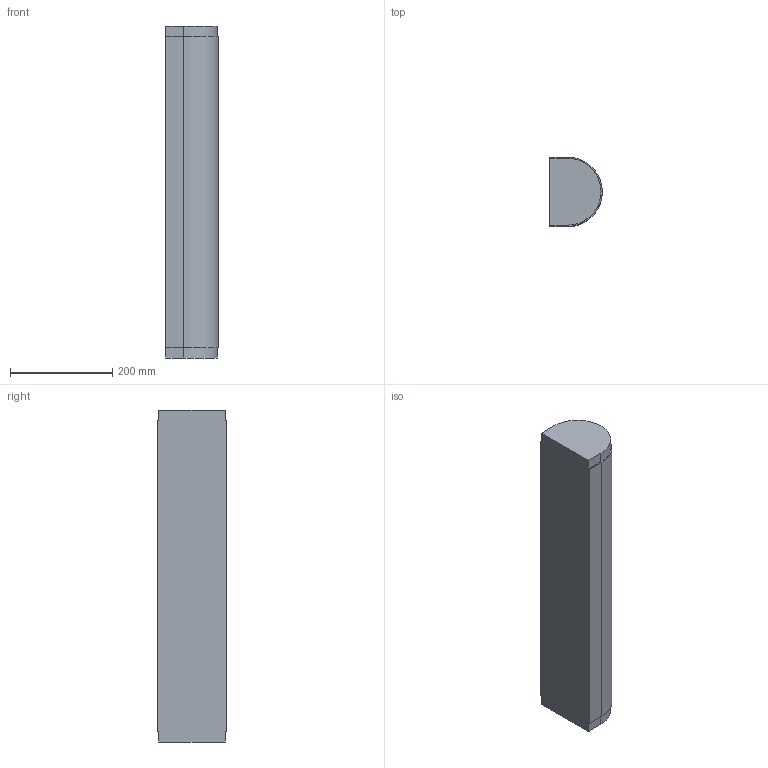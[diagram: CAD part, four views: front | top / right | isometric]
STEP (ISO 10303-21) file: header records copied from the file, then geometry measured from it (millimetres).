
FILE_DESCRIPTION (( 'STEP AP214' ), '1' );
FILE_NAME ('02.150I01.650.N FS-MTC-150 Omloop.STEP', '2013-03-29T10:59:24', ( 'Gebruiker' ), ( '' ), 'SwSTEP 2.0', 'SolidWorks 2012', '' );
FILE_SCHEMA (( 'AUTOMOTIVE_DESIGN' ));
Length unit declared in the file: millimetre
Products named in the file (1): 02.150I01.650.N FS-MTC-150 Omloop
Bounding box: 103 x 136 x 650.5 mm (x, y, z)
Volume: 7792597.7 mm3; surface area: 296489.2 mm2
Topology: 1 solids, 1 shells, 14 faces, 36 edges, 24 vertices
Faces by surface type: plane 11, cylinder 3
Entity records: 460 total; most frequent: CARTESIAN_POINT 75, ORIENTED_EDGE 72, DIRECTION 72, EDGE_CURVE 36, LINE 30, VECTOR 30, VERTEX_POINT 24, AXIS2_PLACEMENT_3D 21
